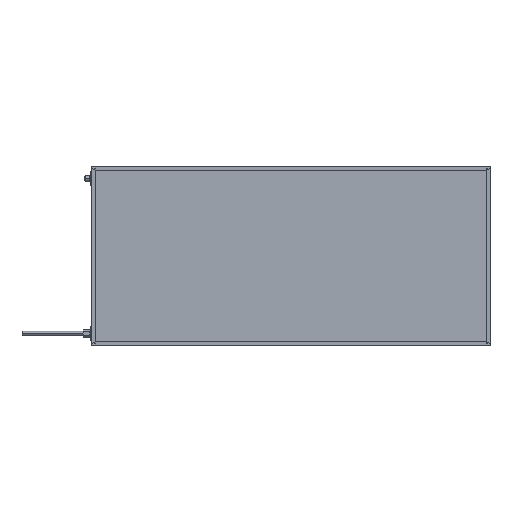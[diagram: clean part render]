
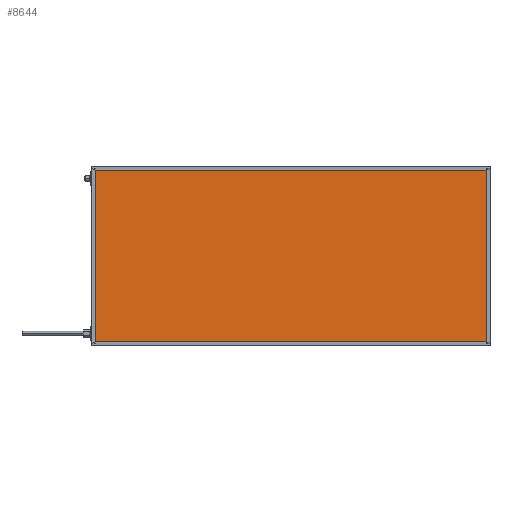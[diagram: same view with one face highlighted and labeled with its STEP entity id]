
A CAD part, top view. The second image highlights one B-rep face of the part: STEP entity #8644.
In plain terms, the highlighted planar face has unit normal (0, 0, 1).
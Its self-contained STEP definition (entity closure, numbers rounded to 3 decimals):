
#102 = VECTOR ( 'NONE', #3023, 1000. ) ;
#1709 = LINE ( 'NONE', #9924, #13950 ) ;
#3023 = DIRECTION ( 'NONE',  ( -1., 0., 0. ) ) ;
#3065 = EDGE_CURVE ( 'NONE', #14495, #7272, #11624, .T. ) ;
#3303 = CARTESIAN_POINT ( 'NONE',  ( 4., 0., 41.85 ) ) ;
#4388 = CARTESIAN_POINT ( 'NONE',  ( 0., 396., 41.85 ) ) ;
#4469 = VECTOR ( 'NONE', #17345, 1000. ) ;
#5736 = EDGE_CURVE ( 'NONE', #7272, #6680, #1709, .T. ) ;
#6137 = DIRECTION ( 'NONE',  ( 1., 0., 0. ) ) ;
#6202 = ORIENTED_EDGE ( 'NONE', *, *, #10470, .T. ) ;
#6321 = CARTESIAN_POINT ( 'NONE',  ( 0., 4., 41.85 ) ) ;
#6680 = VERTEX_POINT ( 'NONE', #16224 ) ;
#7272 = VERTEX_POINT ( 'NONE', #9909 ) ;
#8614 = EDGE_LOOP ( 'NONE', ( #8852, #16410, #6202, #10255 ) ) ;
#8644 = ADVANCED_FACE ( 'NONE', ( #9233 ), #12240, .F. ) ;
#8852 = ORIENTED_EDGE ( 'NONE', *, *, #5736, .T. ) ;
#9233 = FACE_OUTER_BOUND ( 'NONE', #8614, .T. ) ;
#9909 = CARTESIAN_POINT ( 'NONE',  ( 896., 4., 41.85 ) ) ;
#9924 = CARTESIAN_POINT ( 'NONE',  ( 896., 0., 41.85 ) ) ;
#10211 = VERTEX_POINT ( 'NONE', #17391 ) ;
#10255 = ORIENTED_EDGE ( 'NONE', *, *, #3065, .T. ) ;
#10405 = LINE ( 'NONE', #4388, #102 ) ;
#10470 = EDGE_CURVE ( 'NONE', #10211, #14495, #14425, .T. ) ;
#10993 = VECTOR ( 'NONE', #6137, 1000. ) ;
#11423 = AXIS2_PLACEMENT_3D ( 'NONE', #12050, #13505, #15058 ) ;
#11624 = LINE ( 'NONE', #6321, #10993 ) ;
#12050 = CARTESIAN_POINT ( 'NONE',  ( 0., 0., 41.85 ) ) ;
#12240 = PLANE ( 'NONE',  #11423 ) ;
#12442 = EDGE_CURVE ( 'NONE', #6680, #10211, #10405, .T. ) ;
#13505 = DIRECTION ( 'NONE',  ( 0., 0., -1. ) ) ;
#13950 = VECTOR ( 'NONE', #16855, 1000. ) ;
#14425 = LINE ( 'NONE', #3303, #4469 ) ;
#14495 = VERTEX_POINT ( 'NONE', #16822 ) ;
#15058 = DIRECTION ( 'NONE',  ( -1., 0., 0. ) ) ;
#16224 = CARTESIAN_POINT ( 'NONE',  ( 896., 396., 41.85 ) ) ;
#16410 = ORIENTED_EDGE ( 'NONE', *, *, #12442, .T. ) ;
#16822 = CARTESIAN_POINT ( 'NONE',  ( 4., 4., 41.85 ) ) ;
#16855 = DIRECTION ( 'NONE',  ( 0., 1., 0. ) ) ;
#17345 = DIRECTION ( 'NONE',  ( 0., -1., 0. ) ) ;
#17391 = CARTESIAN_POINT ( 'NONE',  ( 4., 396., 41.85 ) ) ;
